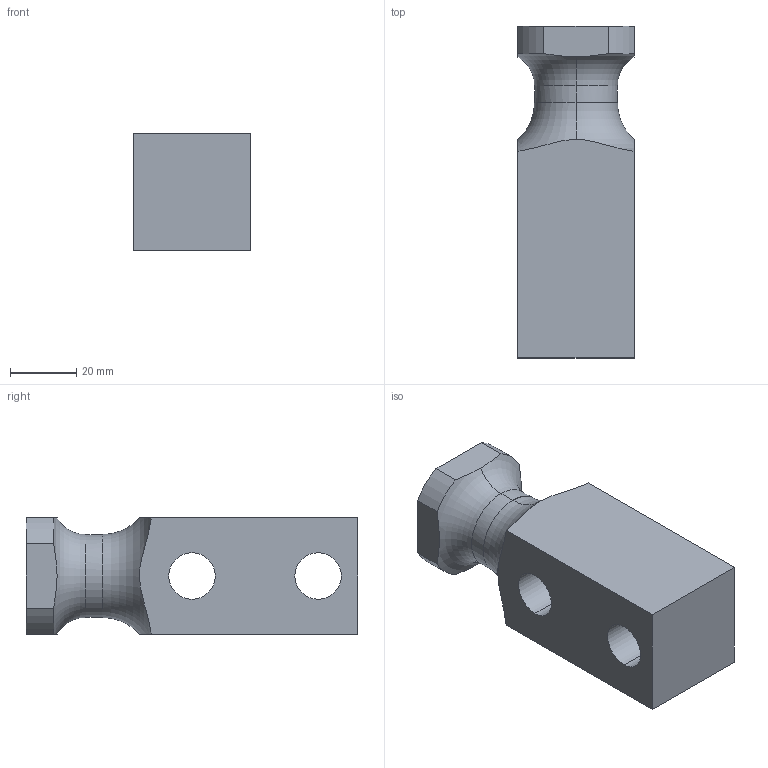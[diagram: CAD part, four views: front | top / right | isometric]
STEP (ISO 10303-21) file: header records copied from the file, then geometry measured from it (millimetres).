
FILE_DESCRIPTION(('CATIA V5 STEP Exchange'),'2;1');
FILE_NAME('C:\Users\Raffaele\Desktop\3D X SITO CF\PERNI -STAFFE SOLLEVAMENTO\395V\GSB_OILLESS_C10104035100\STEP-2.03\395V-04-035-100.stp','2019-07-03T12:26:58+00:00',('none'),('none'),'CATIA Version 5 Release 20 GA (IN-10)','CATIA V5 STEP AP203','none');
FILE_SCHEMA(('CONFIG_CONTROL_DESIGN'));
Length unit declared in the file: millimetre
Products named in the file (1): 395V-04-035-100
Bounding box: 35 x 100 x 35 mm (x, y, z)
Volume: 90527.5 mm3; surface area: 18304.1 mm2
Topology: 1 solids, 1 shells, 30 faces, 129 edges, 103 vertices
Faces by surface type: cylinder 14, plane 12, torus 4
Entity records: 1631 total; most frequent: CARTESIAN_POINT 547, ORIENTED_EDGE 258, DIRECTION 157, EDGE_CURVE 129, VERTEX_POINT 103, AXIS2_PLACEMENT_3D 98, CIRCLE 67, EDGE_LOOP 36
